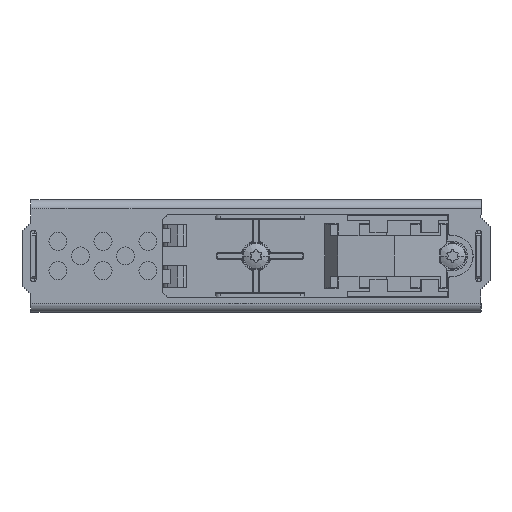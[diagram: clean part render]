
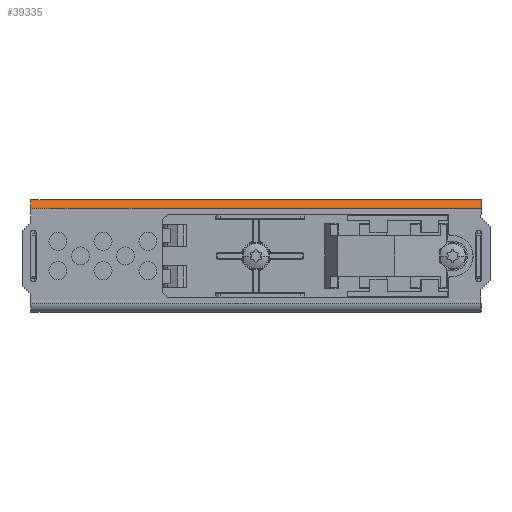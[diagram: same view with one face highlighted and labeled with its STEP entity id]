
A CAD part, left-side view. The second image highlights one B-rep face of the part: STEP entity #39335.
In plain terms, the highlighted free-form (B-spline) face has degree [5, 1] with [6, 2] control points.
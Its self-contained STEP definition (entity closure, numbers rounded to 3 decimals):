
#135=DIRECTION('',(0.,-1.,0.));
#136=VECTOR('',#135,100.);
#137=CARTESIAN_POINT('',(1.,100.,10.5));
#138=LINE('',#137,#136);
#334=CARTESIAN_POINT('',(3.,100.,10.5));
#335=DIRECTION('',(0.,1.,0.));
#336=DIRECTION('',(-1.,0.,0.));
#337=AXIS2_PLACEMENT_3D('',#334,#335,#336);
#1393=DIRECTION('',(0.,-1.,0.));
#1394=VECTOR('',#1393,100.);
#1395=CARTESIAN_POINT('',(3.,100.,12.5));
#1396=LINE('',#1395,#1394);
#1608=CARTESIAN_POINT('',(3.,0.,10.5));
#1609=DIRECTION('',(0.,-1.,0.));
#1610=DIRECTION('',(0.,0.,1.));
#1611=AXIS2_PLACEMENT_3D('',#1608,#1609,#1610);
#33558=CARTESIAN_POINT('',(3.,0.,12.5));
#33559=CARTESIAN_POINT('',(1.,0.,10.5));
#33560=VERTEX_POINT('',#33558);
#33561=VERTEX_POINT('',#33559);
#33562=CARTESIAN_POINT('',(1.,100.,10.5));
#33563=VERTEX_POINT('',#33562);
#33564=CARTESIAN_POINT('',(3.,100.,12.5));
#33565=VERTEX_POINT('',#33564);
#39315=CARTESIAN_POINT('',(3.063,102.,12.499));
#39316=CARTESIAN_POINT('',(3.063,-2.,12.499));
#39317=CARTESIAN_POINT('',(2.41,102.,12.52));
#39318=CARTESIAN_POINT('',(2.41,-2.,12.52));
#39319=CARTESIAN_POINT('',(1.748,102.,12.273));
#39320=CARTESIAN_POINT('',(1.748,-2.,12.273));
#39321=CARTESIAN_POINT('',(1.227,102.,11.752));
#39322=CARTESIAN_POINT('',(1.227,-2.,11.752));
#39323=CARTESIAN_POINT('',(0.98,102.,11.09));
#39324=CARTESIAN_POINT('',(0.98,-2.,11.09));
#39325=CARTESIAN_POINT('',(1.001,102.,10.437));
#39326=CARTESIAN_POINT('',(1.001,-2.,10.437));
#39327=B_SPLINE_SURFACE_WITH_KNOTS('',5,1,((#39315,#39316),(#39317,#39318),(
#39319,#39320),(#39321,#39322),(#39323,#39324),(#39325,#39326)),.UNSPECIFIED.,
.F.,.F.,.F.,(6,6),(2,2),(-0.031,1.602),(128.36,
232.36),.UNSPECIFIED.);
#39329=ORIENTED_EDGE('',*,*,#39328,.T.);
#39330=ORIENTED_EDGE('',*,*,#38115,.F.);
#39331=ORIENTED_EDGE('',*,*,#38244,.T.);
#39332=ORIENTED_EDGE('',*,*,#39198,.T.);
#39333=EDGE_LOOP('',(#39329,#39330,#39331,#39332));
#39334=FACE_OUTER_BOUND('',#39333,.F.);
#39335=ADVANCED_FACE('',(#39334),#39327,.T.);
#338=CIRCLE('',#337,2.);
#1612=CIRCLE('',#1611,2.);
#38115=EDGE_CURVE('',#33563,#33561,#138,.T.);
#38244=EDGE_CURVE('',#33563,#33565,#338,.T.);
#39198=EDGE_CURVE('',#33565,#33560,#1396,.T.);
#39328=EDGE_CURVE('',#33560,#33561,#1612,.T.);
